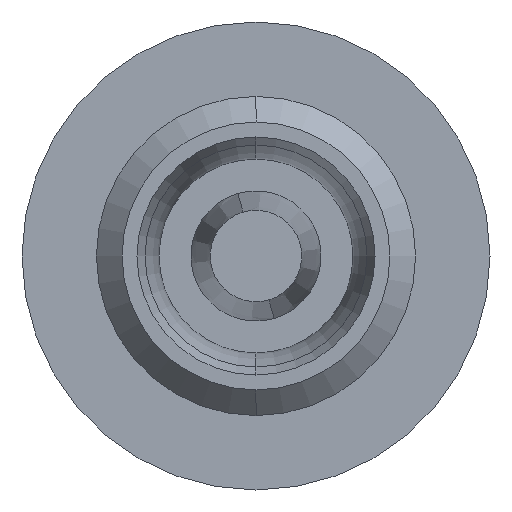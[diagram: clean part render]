
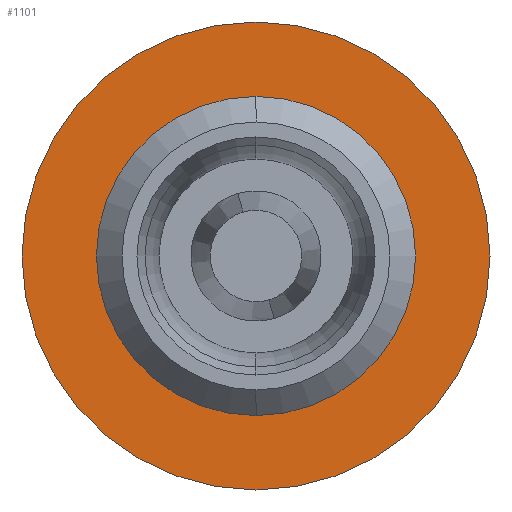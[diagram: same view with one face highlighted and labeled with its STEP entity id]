
A CAD part, left-side view. The second image highlights one B-rep face of the part: STEP entity #1101.
In plain terms, the highlighted planar face has unit normal (-1, 0, 0).
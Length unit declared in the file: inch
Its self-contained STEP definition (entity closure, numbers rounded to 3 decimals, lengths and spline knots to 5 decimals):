
#10 = ORIENTED_EDGE ( 'NONE', *, *, #563, .F. ) ;
#121 = EDGE_LOOP ( 'NONE', ( #515, #1281 ) ) ;
#132 = AXIS2_PLACEMENT_3D ( 'NONE', #734, #937, #627 ) ;
#185 = AXIS2_PLACEMENT_3D ( 'NONE', #1023, #854, #948 ) ;
#203 = DIRECTION ( 'NONE',  ( 0., 0., 1. ) ) ;
#240 = CARTESIAN_POINT ( 'NONE',  ( 0.432, 0., -0.15725 ) ) ;
#261 = VERTEX_POINT ( 'NONE', #1318 ) ;
#302 = CARTESIAN_POINT ( 'NONE',  ( 0.432, 0., 0. ) ) ;
#316 = VERTEX_POINT ( 'NONE', #853 ) ;
#346 = FACE_BOUND ( 'NONE', #558, .T. ) ;
#471 = VERTEX_POINT ( 'NONE', #504 ) ;
#504 = CARTESIAN_POINT ( 'NONE',  ( 0.432, 0., -0.10725 ) ) ;
#515 = ORIENTED_EDGE ( 'NONE', *, *, #1178, .T. ) ;
#558 = EDGE_LOOP ( 'NONE', ( #10, #791 ) ) ;
#563 = EDGE_CURVE ( 'NONE', #261, #471, #904, .T. ) ;
#627 = DIRECTION ( 'NONE',  ( 0., 0., -1. ) ) ;
#678 = DIRECTION ( 'NONE',  ( -1., 0., 0. ) ) ;
#681 = DIRECTION ( 'NONE',  ( 0., 0., 1. ) ) ;
#705 = CIRCLE ( 'NONE', #1168, 0.15725 ) ;
#717 = DIRECTION ( 'NONE',  ( 0., 0., 1. ) ) ;
#734 = CARTESIAN_POINT ( 'NONE',  ( 0.432, 0.15725, 0. ) ) ;
#791 = ORIENTED_EDGE ( 'NONE', *, *, #977, .F. ) ;
#813 = PLANE ( 'NONE',  #132 ) ;
#851 = CARTESIAN_POINT ( 'NONE',  ( 0.432, 0., 0. ) ) ;
#853 = CARTESIAN_POINT ( 'NONE',  ( 0.432, 0., 0.15725 ) ) ;
#854 = DIRECTION ( 'NONE',  ( -1., 0., 0. ) ) ;
#868 = CARTESIAN_POINT ( 'NONE',  ( 0.432, 0., 0. ) ) ;
#904 = CIRCLE ( 'NONE', #986, 0.10725 ) ;
#915 = VERTEX_POINT ( 'NONE', #240 ) ;
#937 = DIRECTION ( 'NONE',  ( 1., 0., 0. ) ) ;
#948 = DIRECTION ( 'NONE',  ( 0., 0., 1. ) ) ;
#952 = DIRECTION ( 'NONE',  ( -1., 0., 0. ) ) ;
#977 = EDGE_CURVE ( 'NONE', #471, #261, #1310, .T. ) ;
#986 = AXIS2_PLACEMENT_3D ( 'NONE', #868, #952, #681 ) ;
#1023 = CARTESIAN_POINT ( 'NONE',  ( 0.432, 0., 0. ) ) ;
#1069 = DIRECTION ( 'NONE',  ( -1., 0., 0. ) ) ;
#1101 = ADVANCED_FACE ( 'NONE', ( #346, #1172 ), #813, .F. ) ;
#1168 = AXIS2_PLACEMENT_3D ( 'NONE', #851, #678, #717 ) ;
#1172 = FACE_OUTER_BOUND ( 'NONE', #121, .T. ) ;
#1178 = EDGE_CURVE ( 'NONE', #316, #915, #1212, .T. ) ;
#1212 = CIRCLE ( 'NONE', #185, 0.15725 ) ;
#1238 = AXIS2_PLACEMENT_3D ( 'NONE', #302, #1069, #203 ) ;
#1242 = EDGE_CURVE ( 'NONE', #915, #316, #705, .T. ) ;
#1281 = ORIENTED_EDGE ( 'NONE', *, *, #1242, .T. ) ;
#1310 = CIRCLE ( 'NONE', #1238, 0.10725 ) ;
#1318 = CARTESIAN_POINT ( 'NONE',  ( 0.432, 0., 0.10725 ) ) ;
